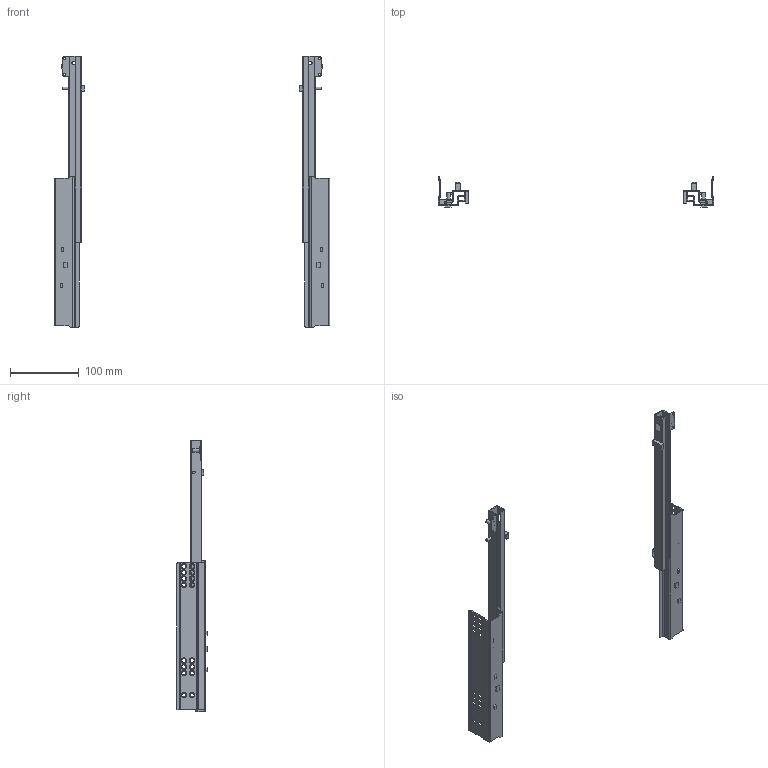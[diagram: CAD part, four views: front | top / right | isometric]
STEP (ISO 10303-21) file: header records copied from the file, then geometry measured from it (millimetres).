
FILE_DESCRIPTION(/* description */ (''),/* implementation_level */ '2;1');
FILE_NAME(/* name */ 'D:\$Workingspace\Designs\Katalog\Cadsoft\GTV Prowadnice\Prowadnice GTV_bryły 3D\PB-G10HX-300_wysunieta.stp',/* time_stamp */ '2016-11-21T14:27:26+01:00',/* author */ ('tomaszw'),/* organization */ (''),/* preprocessor_version */ 'ST-DEVELOPER v16.1',/* originating_system */ 'Autodesk Inventor 2016',/* authorisation */ '');
FILE_SCHEMA (('AUTOMOTIVE_DESIGN { 1 0 10303 214 3 1 1 }'));
Length unit declared in the file: millimetre
Products named in the file (5): PB-G10HX-CL-300; PB-G10HX-CR-300; PB-G10HX-DL-300; PB-G10HX-DR-300; PB-G10HX
Assembly tree (4 placements, depth 2):
  PB-G10HX
    PB-G10HX-CL-300
    PB-G10HX-CR-300
    PB-G10HX-DL-300
    PB-G10HX-DR-300
Bounding box: 400 x 43.8 x 394 mm (x, y, z)
Volume: 134681.9 mm3; surface area: 156408.9 mm2
Topology: 8 solids, 8 shells, 372 faces, 982 edges, 640 vertices
Faces by surface type: plane 222, cylinder 110, cone 32, sphere 8
Full cylindrical faces by diameter (mm): 2 x2, 3 x4, 4 x2, 5 x4, 6 x32, 9 x2, 10 x2
Entity records: 11425 total; most frequent: DIRECTION 1886, CARTESIAN_POINT 1857, ORIENTED_EDGE 1744, EDGE_CURVE 870, AXIS2_PLACEMENT_3D 635, LINE 616, VECTOR 616, VERTEX_POINT 606
